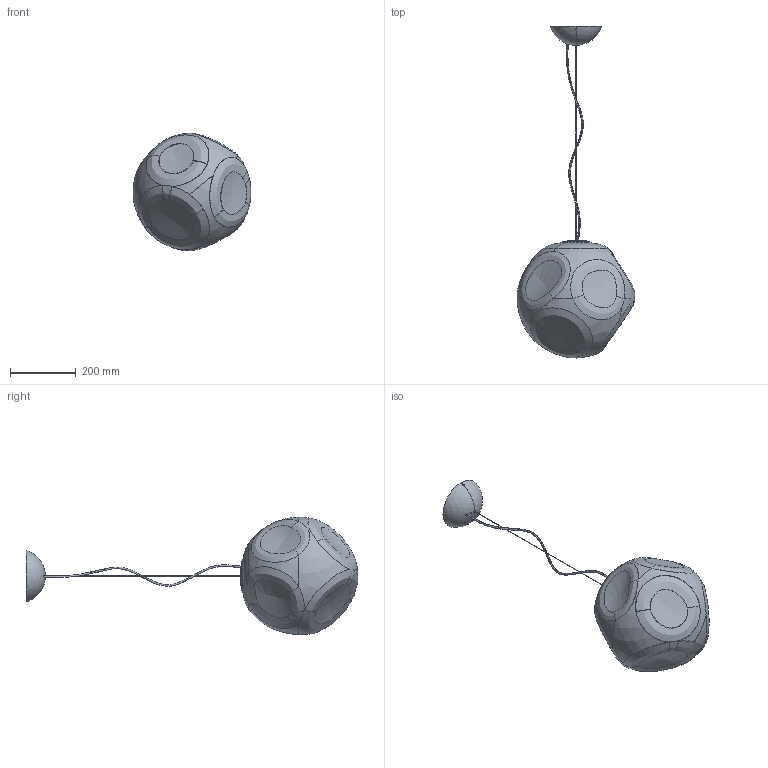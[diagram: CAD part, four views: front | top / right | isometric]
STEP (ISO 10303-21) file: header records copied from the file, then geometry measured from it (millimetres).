
FILE_DESCRIPTION (( 'STEP AP203' ), '1' );
FILE_NAME ('325_GRANDE_S_ME_3D.STEP', '2023-12-20T12:59:50', ( '' ), ( '' ), 'SwSTEP 2.0', 'SolidWorks 2023', '' );
FILE_SCHEMA (( 'CONFIG_CONTROL_DESIGN' ));
Products named in the file (1): 325_GRANDE_S_ME_3D
Bounding box: 359.53 x 1013 x 358.56 mm (x, y, z)
Surface area: 870468.7 mm2 (no closed solid volume)
Topology: 0 solids, 7 shells, 1419 faces, 3551 edges, 2069 vertices
Faces by surface type: bspline 552, torus 220, plane 207, cylinder 205, cone 135, sphere 100
Entity records: 142208 total; most frequent: CARTESIAN_POINT 113321, ORIENTED_EDGE 6902, DIRECTION 5021, EDGE_CURVE 3456, AXIS2_PLACEMENT_3D 2238, VERTEX_POINT 2061, EDGE_LOOP 1454, FACE_OUTER_BOUND 1419
